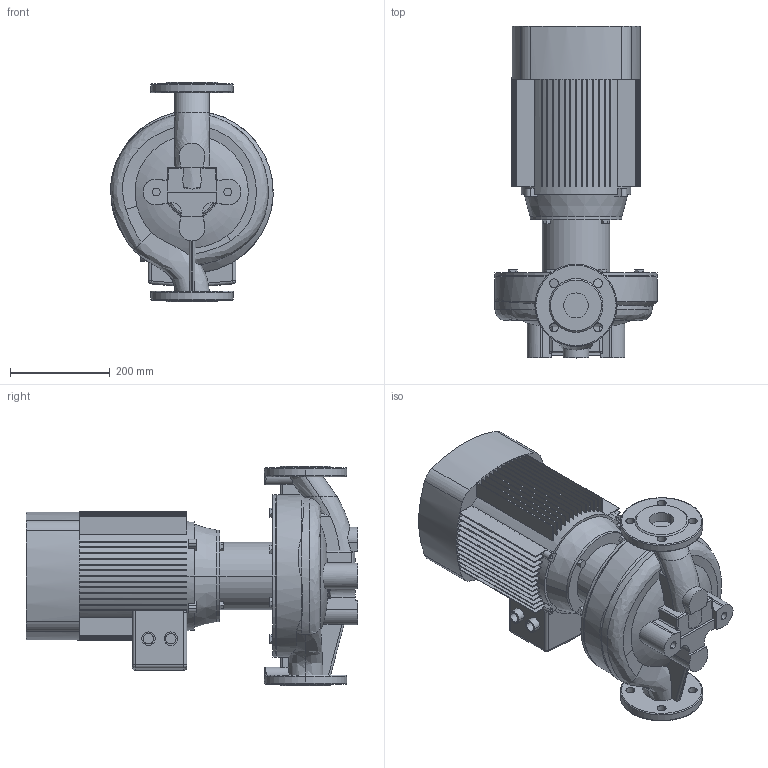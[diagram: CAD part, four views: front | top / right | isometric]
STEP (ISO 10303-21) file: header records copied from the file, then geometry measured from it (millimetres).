
FILE_DESCRIPTION (( 'STEP AP203' ), '1' );
FILE_NAME ('TD50-59G_2.STEP', '2022-05-02T14:59:48', ( '' ), ( '' ), 'SwSTEP 2.0', 'SolidWorks 2019', '' );
FILE_SCHEMA (( 'CONFIG_CONTROL_DESIGN' ));
Length unit declared in the file: millimetre
Products named in the file (4): Pr_ch 50 - 59_80_TD50-59G_2; ED_B14_YE2-132M-4 (7.5); Fon_50_TD50-59G_2; TD50-59G_2
Assembly tree (3 placements, depth 2):
  TD50-59G_2
    Pr_ch 50 - 59_80_TD50-59G_2
    Fon_50_TD50-59G_2
    ED_B14_YE2-132M-4 (7.5)
Bounding box: 326 x 666 x 440 mm (x, y, z)
Volume: 29090025 mm3; surface area: 1648181.7 mm2
Topology: 3 solids, 3 shells, 650 faces, 1771 edges, 1162 vertices
Faces by surface type: plane 427, cylinder 157, bspline 28, torus 21, cone 11, sphere 6
Entity records: 27525 total; most frequent: CARTESIAN_POINT 10533, ORIENTED_EDGE 3538, DIRECTION 3431, EDGE_CURVE 1769, AXIS2_PLACEMENT_3D 1209, VERTEX_POINT 1162, LINE 1013, VECTOR 1013
